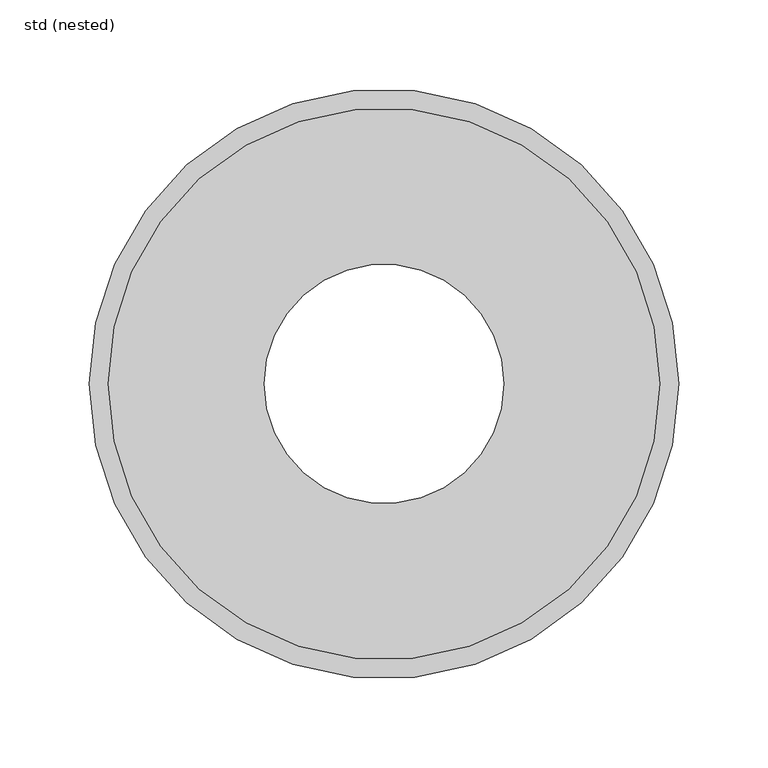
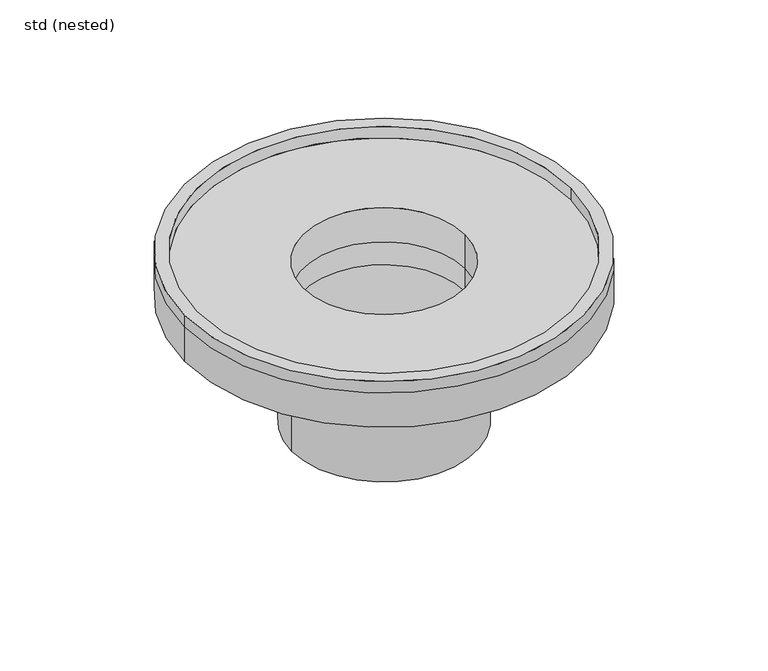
"""IFC4 building model written with IfcOpenShell, lengths in millimetres: sanitary terminal geometry, ZZZ_do not use_PF_PU_insulation for upper part Passavant Spin_ACO : std (nested)."""

from ifc_helpers import new_model, si_unit, frame, origin, origin_with_axes, place, context, project, spatial, polyline, circle_curve, source, transform, mapped, element, save
from ifc_brep_helpers import plane_surface, cylinder_surface, revolved_surface, advanced_brep


def std_nested_46505692(model_context):
    return source(origin(), model_context, "Body", "AdvancedBrep", [
        advanced_brep(
        [(-76.2, 0.0, -150.0), (76.2, 0.0, -150.0), (-67.0, 0.0, -150.0), (67.0, 0.0, -150.0), (76.2, 0.0, -60.0), (-76.2, 0.0, -60.0), (67.0, 0.0, -60.0), (-67.0, 0.0, -60.0), (-76.2, 0.0, -40.0), (76.2, 0.0, -40.0), (-67.0, 0.0, -40.0), (67.0, 0.0, -40.0), (-165.0, 0.0, 0.0), (165.0, 0.0, 0.0), (-154.5, 0.0, 0.0), (154.5, 0.0, 0.0), (-165.0, 0.0, -10.0), (165.0, 0.0, -10.0), (-154.5, 0.0, -10.0), (154.5, 0.0, -10.0), (-165.0, 0.0, -40.0), (165.0, 0.0, -40.0), (-67.0, 0.0, -10.0), (67.0, 0.0, -10.0)],
        [
            (0, 1, circle_curve(frame((0.0, 0.0, -150.0), z_axis=(0.0, 0.0, -1.0), x_axis=(1.0, 0.0, 0.0)), 76.2)),
            (1, 0, circle_curve(frame((0.0, 0.0, -150.0), z_axis=(0.0, 0.0, -1.0), x_axis=(1.0, 0.0, 0.0)), 76.2)),
            (2, 3, circle_curve(frame((0.0, 0.0, -150.0), z_axis=(0.0, 0.0, 1.0), x_axis=(1.0, 0.0, 0.0)), 67.0)),
            (3, 2, circle_curve(frame((0.0, 0.0, -150.0), z_axis=(0.0, 0.0, 1.0), x_axis=(1.0, 0.0, 0.0)), 67.0)),
            (1, 4),
            (4, 5, circle_curve(frame((0.0, 0.0, -60.0), z_axis=(0.0, 0.0, -1.0), x_axis=(1.0, 0.0, 0.0)), 76.2)),
            (5, 0),
            (5, 4, circle_curve(frame((0.0, 0.0, -60.0), z_axis=(0.0, 0.0, -1.0), x_axis=(1.0, 0.0, 0.0)), 76.2)),
            (3, 6),
            (6, 7, circle_curve(frame((0.0, 0.0, -60.0), z_axis=(0.0, 0.0, 1.0), x_axis=(1.0, 0.0, 0.0)), 67.0)),
            (7, 2),
            (7, 6, circle_curve(frame((0.0, 0.0, -60.0), z_axis=(0.0, 0.0, 1.0), x_axis=(1.0, 0.0, 0.0)), 67.0)),
            (8, 5),
            (4, 9),
            (9, 8, circle_curve(frame((0.0, 0.0, -40.0), z_axis=(0.0, 0.0, -1.0), x_axis=(1.0, 0.0, 0.0)), 76.2)),
            (8, 9, circle_curve(frame((0.0, 0.0, -40.0), z_axis=(0.0, 0.0, -1.0), x_axis=(1.0, 0.0, 0.0)), 76.2)),
            (10, 7),
            (6, 11),
            (11, 10, circle_curve(frame((0.0, 0.0, -40.0), z_axis=(0.0, 0.0, 1.0), x_axis=(1.0, 0.0, 0.0)), 67.0)),
            (10, 11, circle_curve(frame((0.0, 0.0, -40.0), z_axis=(0.0, 0.0, 1.0), x_axis=(1.0, 0.0, 0.0)), 67.0)),
            (12, 13, circle_curve(origin_with_axes(), 165.0)),
            (13, 12, circle_curve(origin_with_axes(), 165.0)),
            (14, 15, circle_curve(frame((0.0, 0.0, 0.0), z_axis=(0.0, 0.0, -1.0), x_axis=(1.0, 0.0, 0.0)), 154.5)),
            (15, 14, circle_curve(frame((0.0, 0.0, 0.0), z_axis=(0.0, 0.0, -1.0), x_axis=(1.0, 0.0, 0.0)), 154.5)),
            (12, 16),
            (16, 17, circle_curve(frame((0.0, 0.0, -10.0), z_axis=(0.0, 0.0, 1.0), x_axis=(1.0, 0.0, 0.0)), 165.0)),
            (17, 13),
            (17, 16, circle_curve(frame((0.0, 0.0, -10.0), z_axis=(0.0, 0.0, 1.0), x_axis=(1.0, 0.0, 0.0)), 165.0)),
            (14, 18),
            (18, 19, circle_curve(frame((0.0, 0.0, -10.0), z_axis=(0.0, 0.0, -1.0), x_axis=(1.0, 0.0, 0.0)), 154.5)),
            (19, 15),
            (19, 18, circle_curve(frame((0.0, 0.0, -10.0), z_axis=(0.0, 0.0, -1.0), x_axis=(1.0, 0.0, 0.0)), 154.5)),
            (20, 21, circle_curve(frame((0.0, 0.0, -40.0), z_axis=(0.0, 0.0, -1.0), x_axis=(1.0, 0.0, 0.0)), 165.0)),
            (21, 20, circle_curve(frame((0.0, 0.0, -40.0), z_axis=(0.0, 0.0, -1.0), x_axis=(1.0, 0.0, 0.0)), 165.0)),
            (22, 23, circle_curve(frame((0.0, 0.0, -10.0), z_axis=(0.0, 0.0, -1.0), x_axis=(1.0, 0.0, 0.0)), 67.0)),
            (23, 22, circle_curve(frame((0.0, 0.0, -10.0), z_axis=(0.0, 0.0, -1.0), x_axis=(1.0, 0.0, 0.0)), 67.0)),
            (21, 17),
            (16, 20),
            (22, 10),
            (11, 23),
        ],
        [
            plane_surface(frame((76.2, 0.0, -150.0), z_axis=(0.0, 0.0, -1.0), x_axis=(0.0, -1.0, 0.0))),
            cylinder_surface(frame((0.0, 0.0, -150.0), z_axis=(0.0, 0.0, 1.0), x_axis=(1.0, 0.0, 0.0)), 76.2),
            revolved_surface(polyline([(67.0, 0.0, -150.0), (67.0, 0.0, -60.0)]), (0.0, 0.0, 0.0), (0.0, 0.0, -1.0)),
            cylinder_surface(frame((0.0, 0.0, -60.0), z_axis=(0.0, 0.0, 1.0), x_axis=(1.0, 0.0, 0.0)), 76.2),
            revolved_surface(polyline([(67.0, 0.0, -60.0), (67.0, 0.0, -40.0)]), (0.0, 0.0, 0.0), (0.0, 0.0, -1.0)),
            plane_surface(frame((165.0, 0.0, 0.0), z_axis=(0.0, 0.0, 1.0), x_axis=(0.0, 1.0, 0.0))),
            cylinder_surface(frame((0.0, 0.0, -10.0), z_axis=(0.0, 0.0, 1.0), x_axis=(1.0, 0.0, 0.0)), 165.0),
            revolved_surface(polyline([(154.5, 0.0, -10.0), (154.5, 0.0, 0.0)]), (0.0, 0.0, 0.0), (0.0, 0.0, -1.0)),
            plane_surface(frame((165.0, 0.0, -40.0), z_axis=(0.0, 0.0, -1.0), x_axis=(0.0, -1.0, 0.0))),
            plane_surface(frame((165.0, 0.0, -10.0), z_axis=(0.0, 0.0, 1.0), x_axis=(0.0, 1.0, 0.0))),
            cylinder_surface(frame((0.0, 0.0, -40.0), z_axis=(0.0, 0.0, 1.0), x_axis=(1.0, 0.0, 0.0)), 165.0),
            revolved_surface(polyline([(67.0, 0.0, -40.0), (67.0, 0.0, -10.0)]), (0.0, 0.0, 0.0), (0.0, 0.0, -1.0)),
        ],
        [
            (0, [[1, 2], [3, 4]]),
            (1, [[-2, 5, 6, 7]]),
            (1, [[-1, -7, 8, -5]]),
            (2, [[-4, 9, 10, 11]]),
            (2, [[-3, -11, 12, -9]]),
            (3, [[13, -6, 14, 15]]),
            (3, [[-13, 16, -14, -8]]),
            (4, [[17, -10, 18, 19]]),
            (4, [[-17, 20, -18, -12]]),
            (5, [[21, 22], [23, 24]]),
            (6, [[-21, 25, 26, 27]]),
            (6, [[-22, -27, 28, -25]]),
            (7, [[-23, 29, 30, 31]]),
            (7, [[-24, -31, 32, -29]]),
            (8, [[33, 34], [-15, -16]]),
            (9, [[-30, -32], [35, 36]]),
            (10, [[-34, 37, -26, 38]]),
            (10, [[-33, -38, -28, -37]]),
            (11, [[-35, 39, -19, 40]]),
            (11, [[-36, -40, -20, -39]]),
        ],
    ),
    ])


if __name__ == "__main__":
    model = new_model("IFC4")
    model_context = context("Model", 3, world=origin())
    ifc_project = project(units=[si_unit("LENGTHUNIT", "METRE", prefix="MILLI")], contexts=[model_context])
    site = spatial("IfcSite", under=ifc_project)
    building = spatial("IfcBuilding", under=site)
    placement = place(None, origin())
    std_nested_shape = std_nested_46505692(model_context)
    element("IfcSanitaryTerminal", 1, ObjectType="ZZZ_do not use_PF_PU_insulation for upper part Passavant Spin_ACO : std (nested)", at=placement, inside=building, context=model_context, shape_type="MappedRepresentation", body=[
        mapped(std_nested_shape, transform((0.0, 0.0, 0.0), x_axis=(1.0, 0.0, 0.0), y_axis=(0.0, 1.0, 0.0), z_axis=(0.0, 0.0, 1.0))),
    ])
    save(model, "model.ifc")
